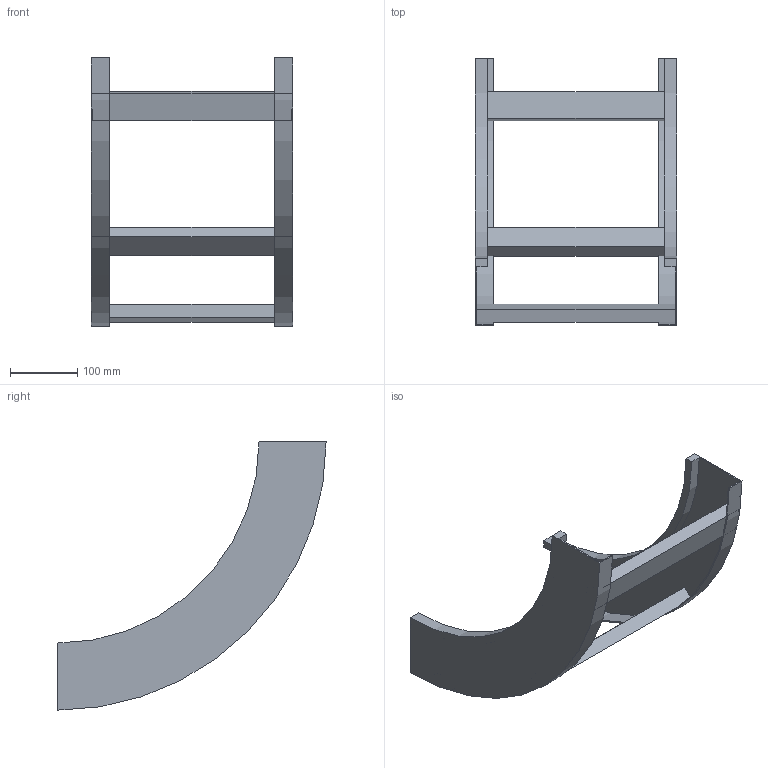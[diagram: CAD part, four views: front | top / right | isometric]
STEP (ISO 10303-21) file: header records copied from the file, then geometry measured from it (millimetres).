
FILE_DESCRIPTION (( 'STEP AP214' ), '1' );
FILE_NAME ('B2X30B3D300XX.step', '2025-03-20T10:20:10', ( '' ), ( '' ), 'SwSTEP 2.0', 'SolidWorks 2023', '' );
FILE_SCHEMA (( 'AUTOMOTIVE_DESIGN' ));
Length unit declared in the file: millimetre
Products named in the file (3): B2_LONGH.SALITA_90°_H100_R300; TRAVERSINO_300; B2X30B3D300XX
Assembly tree (5 placements, depth 2):
  B2X30B3D300XX
    B2_LONGH.SALITA_90°_H100_R300  x2
    TRAVERSINO_300  x3
Bounding box: 300 x 400 x 400 mm (x, y, z)
Volume: 1186441.1 mm3; surface area: 431823 mm2
Topology: 5 solids, 5 shells, 38 faces, 84 edges, 56 vertices
Faces by surface type: plane 30, cylinder 8
Entity records: 560 total; most frequent: DIRECTION 92, CARTESIAN_POINT 84, ORIENTED_EDGE 72, EDGE_CURVE 36, AXIS2_PLACEMENT_3D 32, LINE 28, VECTOR 28, VERTEX_POINT 24
